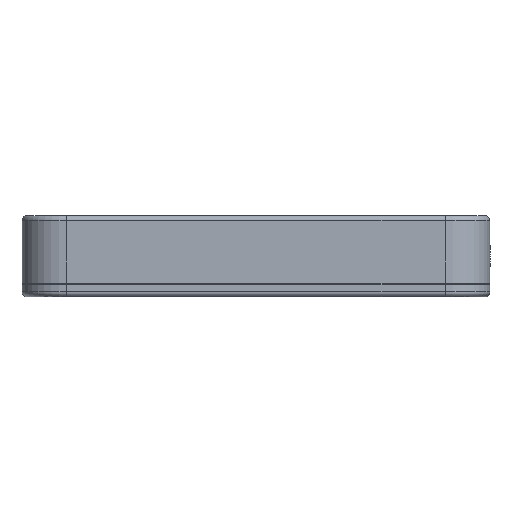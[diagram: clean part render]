
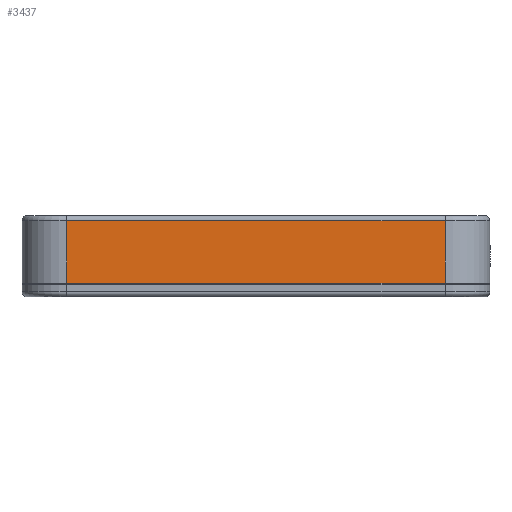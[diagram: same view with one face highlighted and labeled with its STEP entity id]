
A CAD part, left-side view. The second image highlights one B-rep face of the part: STEP entity #3437.
In plain terms, the highlighted planar face has unit normal (-1, 0, 0).
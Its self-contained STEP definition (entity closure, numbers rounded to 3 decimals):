
#1542 = PLANE('',#1543);
#1543 = AXIS2_PLACEMENT_3D('',#1544,#1545,#1546);
#1544 = CARTESIAN_POINT('',(-1.,-1.,6.8));
#1545 = DIRECTION('',(0.,0.,1.));
#1546 = DIRECTION('',(1.,0.,0.));
#2396 = VERTEX_POINT('',#2397);
#2397 = CARTESIAN_POINT('',(0.,208.,6.8));
#2412 = CYLINDRICAL_SURFACE('',#2413,22.);
#2413 = AXIS2_PLACEMENT_3D('',#2414,#2415,#2416);
#2414 = CARTESIAN_POINT('',(22.,208.,0.));
#2415 = DIRECTION('',(0.,0.,1.));
#2416 = DIRECTION('',(-1.,-0.,0.));
#2424 = EDGE_CURVE('',#2396,#2425,#2427,.T.);
#2425 = VERTEX_POINT('',#2426);
#2426 = CARTESIAN_POINT('',(0.,22.,6.8));
#2427 = SURFACE_CURVE('',#2428,(#2432,#2438),.PCURVE_S1.);
#2428 = LINE('',#2429,#2430);
#2429 = CARTESIAN_POINT('',(0.,-0.5,6.8));
#2430 = VECTOR('',#2431,1.);
#2431 = DIRECTION('',(0.,-1.,0.));
#2432 = PCURVE('',#1542,#2433);
#2433 = DEFINITIONAL_REPRESENTATION('',(#2434),#2437);
#2434 = B_SPLINE_CURVE_WITH_KNOTS('',1,(#2435,#2436),.UNSPECIFIED.,.F.,
  .F.,(2,2),(-208.5,-22.5),.PIECEWISE_BEZIER_KNOTS.);
#2435 = CARTESIAN_POINT('',(1.,209.));
#2436 = CARTESIAN_POINT('',(1.,23.));
#2437 = ( GEOMETRIC_REPRESENTATION_CONTEXT(2) 
PARAMETRIC_REPRESENTATION_CONTEXT() REPRESENTATION_CONTEXT('2D SPACE',''
  ) );
#2438 = PCURVE('',#2439,#2444);
#2439 = PLANE('',#2440);
#2440 = AXIS2_PLACEMENT_3D('',#2441,#2442,#2443);
#2441 = CARTESIAN_POINT('',(0.,0.,0.));
#2442 = DIRECTION('',(1.,0.,0.));
#2443 = DIRECTION('',(0.,0.,1.));
#2444 = DEFINITIONAL_REPRESENTATION('',(#2445),#2448);
#2445 = B_SPLINE_CURVE_WITH_KNOTS('',1,(#2446,#2447),.UNSPECIFIED.,.F.,
  .F.,(2,2),(-208.5,-22.5),.PIECEWISE_BEZIER_KNOTS.);
#2446 = CARTESIAN_POINT('',(6.8,-208.));
#2447 = CARTESIAN_POINT('',(6.8,-22.));
#2448 = ( GEOMETRIC_REPRESENTATION_CONTEXT(2) 
PARAMETRIC_REPRESENTATION_CONTEXT() REPRESENTATION_CONTEXT('2D SPACE',''
  ) );
#2467 = CYLINDRICAL_SURFACE('',#2468,22.);
#2468 = AXIS2_PLACEMENT_3D('',#2469,#2470,#2471);
#2469 = CARTESIAN_POINT('',(22.,22.,0.));
#2470 = DIRECTION('',(0.,0.,1.));
#2471 = DIRECTION('',(-1.,-0.,0.));
#2859 = EDGE_CURVE('',#2396,#2860,#2862,.T.);
#2860 = VERTEX_POINT('',#2861);
#2861 = CARTESIAN_POINT('',(0.,208.,37.5));
#2862 = SURFACE_CURVE('',#2863,(#2867,#2874),.PCURVE_S1.);
#2863 = LINE('',#2864,#2865);
#2864 = CARTESIAN_POINT('',(0.,208.,0.));
#2865 = VECTOR('',#2866,1.);
#2866 = DIRECTION('',(0.,0.,1.));
#2867 = PCURVE('',#2412,#2868);
#2868 = DEFINITIONAL_REPRESENTATION('',(#2869),#2873);
#2869 = LINE('',#2870,#2871);
#2870 = CARTESIAN_POINT('',(-0.,0.));
#2871 = VECTOR('',#2872,1.);
#2872 = DIRECTION('',(-0.,1.));
#2873 = ( GEOMETRIC_REPRESENTATION_CONTEXT(2) 
PARAMETRIC_REPRESENTATION_CONTEXT() REPRESENTATION_CONTEXT('2D SPACE',''
  ) );
#2874 = PCURVE('',#2439,#2875);
#2875 = DEFINITIONAL_REPRESENTATION('',(#2876),#2880);
#2876 = LINE('',#2877,#2878);
#2877 = CARTESIAN_POINT('',(0.,-208.));
#2878 = VECTOR('',#2879,1.);
#2879 = DIRECTION('',(1.,0.));
#2880 = ( GEOMETRIC_REPRESENTATION_CONTEXT(2) 
PARAMETRIC_REPRESENTATION_CONTEXT() REPRESENTATION_CONTEXT('2D SPACE',''
  ) );
#3386 = EDGE_CURVE('',#2425,#3387,#3389,.T.);
#3387 = VERTEX_POINT('',#3388);
#3388 = CARTESIAN_POINT('',(0.,22.,37.5));
#3389 = SURFACE_CURVE('',#3390,(#3394,#3401),.PCURVE_S1.);
#3390 = LINE('',#3391,#3392);
#3391 = CARTESIAN_POINT('',(0.,22.,0.));
#3392 = VECTOR('',#3393,1.);
#3393 = DIRECTION('',(0.,0.,1.));
#3394 = PCURVE('',#2467,#3395);
#3395 = DEFINITIONAL_REPRESENTATION('',(#3396),#3400);
#3396 = LINE('',#3397,#3398);
#3397 = CARTESIAN_POINT('',(0.,0.));
#3398 = VECTOR('',#3399,1.);
#3399 = DIRECTION('',(0.,1.));
#3400 = ( GEOMETRIC_REPRESENTATION_CONTEXT(2) 
PARAMETRIC_REPRESENTATION_CONTEXT() REPRESENTATION_CONTEXT('2D SPACE',''
  ) );
#3401 = PCURVE('',#2439,#3402);
#3402 = DEFINITIONAL_REPRESENTATION('',(#3403),#3407);
#3403 = LINE('',#3404,#3405);
#3404 = CARTESIAN_POINT('',(0.,-22.));
#3405 = VECTOR('',#3406,1.);
#3406 = DIRECTION('',(1.,0.));
#3407 = ( GEOMETRIC_REPRESENTATION_CONTEXT(2) 
PARAMETRIC_REPRESENTATION_CONTEXT() REPRESENTATION_CONTEXT('2D SPACE',''
  ) );
#3437 = ADVANCED_FACE('',(#3438),#2439,.F.);
#3438 = FACE_BOUND('',#3439,.F.);
#3439 = EDGE_LOOP('',(#3440,#3441,#3442,#3468));
#3440 = ORIENTED_EDGE('',*,*,#2424,.F.);
#3441 = ORIENTED_EDGE('',*,*,#2859,.T.);
#3442 = ORIENTED_EDGE('',*,*,#3443,.T.);
#3443 = EDGE_CURVE('',#2860,#3387,#3444,.T.);
#3444 = SURFACE_CURVE('',#3445,(#3449,#3456),.PCURVE_S1.);
#3445 = LINE('',#3446,#3447);
#3446 = CARTESIAN_POINT('',(0.,208.,37.5));
#3447 = VECTOR('',#3448,1.);
#3448 = DIRECTION('',(0.,-1.,0.));
#3449 = PCURVE('',#2439,#3450);
#3450 = DEFINITIONAL_REPRESENTATION('',(#3451),#3455);
#3451 = LINE('',#3452,#3453);
#3452 = CARTESIAN_POINT('',(37.5,-208.));
#3453 = VECTOR('',#3454,1.);
#3454 = DIRECTION('',(0.,1.));
#3455 = ( GEOMETRIC_REPRESENTATION_CONTEXT(2) 
PARAMETRIC_REPRESENTATION_CONTEXT() REPRESENTATION_CONTEXT('2D SPACE',''
  ) );
#3456 = PCURVE('',#3457,#3462);
#3457 = CYLINDRICAL_SURFACE('',#3458,2.5);
#3458 = AXIS2_PLACEMENT_3D('',#3459,#3460,#3461);
#3459 = CARTESIAN_POINT('',(2.5,208.,37.5));
#3460 = DIRECTION('',(0.,-1.,0.));
#3461 = DIRECTION('',(0.,0.,1.));
#3462 = DEFINITIONAL_REPRESENTATION('',(#3463),#3467);
#3463 = LINE('',#3464,#3465);
#3464 = CARTESIAN_POINT('',(1.571,0.));
#3465 = VECTOR('',#3466,1.);
#3466 = DIRECTION('',(0.,1.));
#3467 = ( GEOMETRIC_REPRESENTATION_CONTEXT(2) 
PARAMETRIC_REPRESENTATION_CONTEXT() REPRESENTATION_CONTEXT('2D SPACE',''
  ) );
#3468 = ORIENTED_EDGE('',*,*,#3386,.F.);
